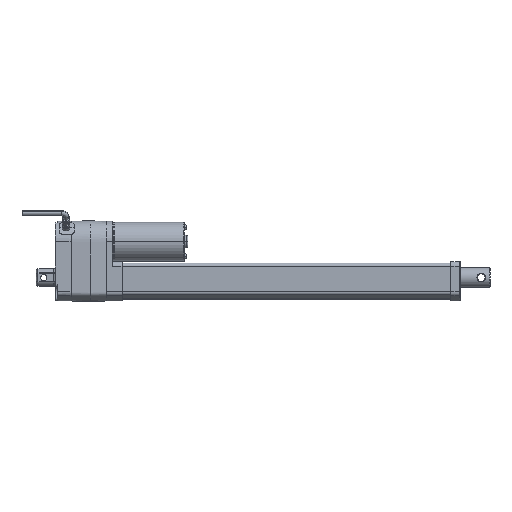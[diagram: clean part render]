
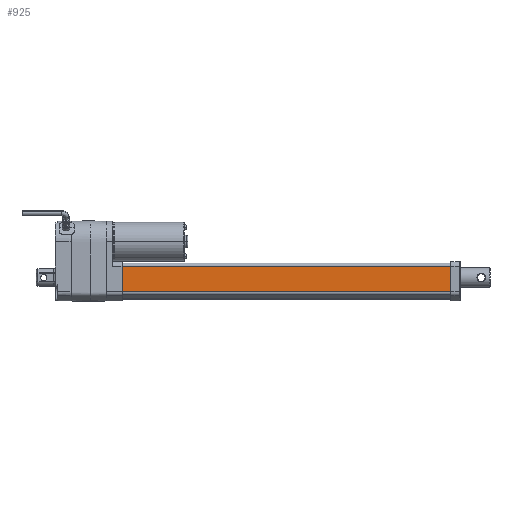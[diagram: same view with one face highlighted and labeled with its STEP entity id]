
A CAD part, top view. The second image highlights one B-rep face of the part: STEP entity #925.
In plain terms, the highlighted planar face has unit normal (0, 0, 1).
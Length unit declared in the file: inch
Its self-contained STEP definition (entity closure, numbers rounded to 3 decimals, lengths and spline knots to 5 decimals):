
#925=ADVANCED_FACE('',(#1899),#1900,.T.);
#1899=FACE_OUTER_BOUND('',#3265,.T.);
#1900=PLANE('',#3266);
#3265=EDGE_LOOP('',(#6015,#6016,#6017,#6018));
#3266=AXIS2_PLACEMENT_3D('',#6019,#6020,#6021);
#6015=ORIENTED_EDGE('',*,*,#6440,.F.);
#6016=ORIENTED_EDGE('',*,*,#7359,.F.);
#6017=ORIENTED_EDGE('',*,*,#6646,.T.);
#6018=ORIENTED_EDGE('',*,*,#7465,.T.);
#6019=CARTESIAN_POINT('',(16.00394,-0.5801,0.76772));
#6020=DIRECTION('',(0.0,-0.0,1.0));
#6021=DIRECTION('',(0.0,1.0,0.0));
#6440=EDGE_CURVE('',#7665,#7667,#7668,.T.);
#6646=EDGE_CURVE('',#8030,#8028,#8031,.T.);
#7359=EDGE_CURVE('',#8030,#7665,#9053,.T.);
#7465=EDGE_CURVE('',#8028,#7667,#9175,.T.);
#7665=VERTEX_POINT('',#9423);
#7667=VERTEX_POINT('',#9425);
#7668=LINE('',#9426,#9427);
#8028=VERTEX_POINT('',#9971);
#8030=VERTEX_POINT('',#9973);
#8031=LINE('',#9974,#9975);
#9053=LINE('',#11488,#11489);
#9175=LINE('',#11779,#11780);
#9423=CARTESIAN_POINT('',(2.69685,-0.5801,0.76772));
#9425=CARTESIAN_POINT('',(2.69685,0.45276,0.76772));
#9426=CARTESIAN_POINT('',(2.69685,0.45276,0.76772));
#9427=VECTOR('',#11967,39.37008);
#9971=CARTESIAN_POINT('',(16.00394,0.45276,0.76772));
#9973=CARTESIAN_POINT('',(16.00394,-0.5801,0.76772));
#9974=CARTESIAN_POINT('',(16.00394,-0.5801,0.76772));
#9975=VECTOR('',#12262,39.37008);
#11488=CARTESIAN_POINT('',(16.00394,-0.5801,0.76772));
#11489=VECTOR('',#13222,39.37008);
#11779=CARTESIAN_POINT('',(16.00394,0.45276,0.76772));
#11780=VECTOR('',#13324,39.37008);
#11967=DIRECTION('',(0.0,1.0,0.0));
#12262=DIRECTION('',(0.0,1.0,0.0));
#13222=DIRECTION('',(-1.0,0.0,0.0));
#13324=DIRECTION('',(-1.0,0.0,0.0));
